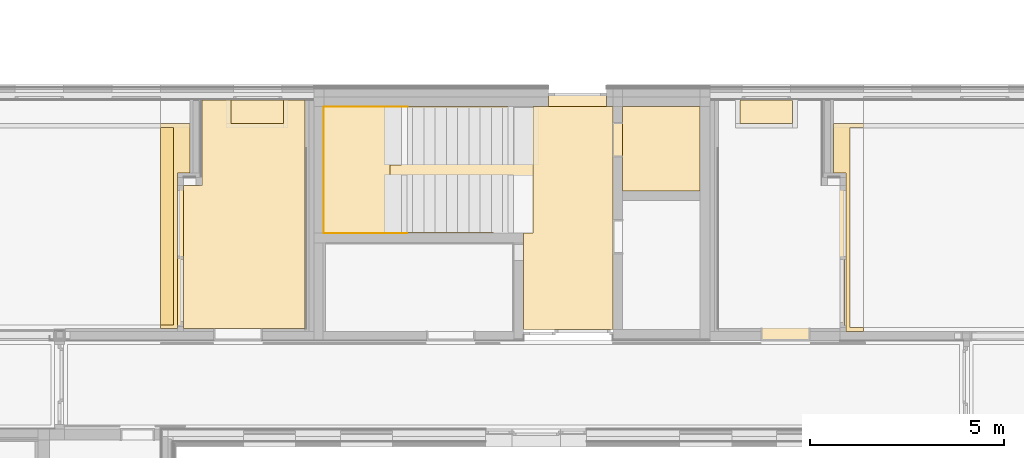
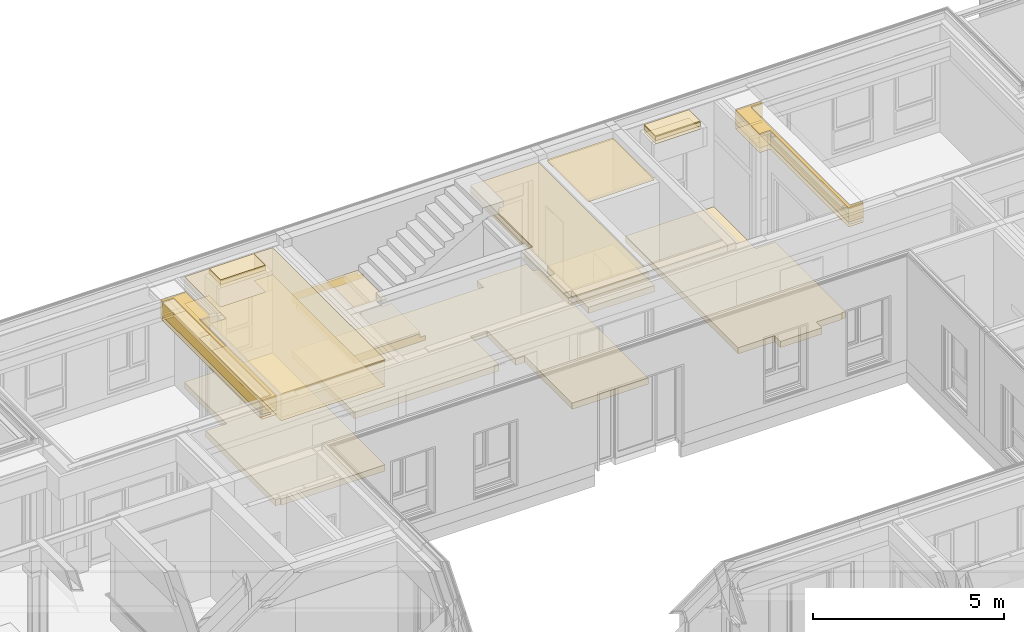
# One storey, part 176 of 207: 35 coverings.
"""IFC4 building model written with IfcOpenShell, lengths in metres."""

from ifc_helpers import new_model, entity, si_unit, converted_unit, derived_unit, frame, frame_2d, origin, origin_with_axes, place, context, subcontext, project, spatial, polyline, rectangle, outline, extrude, material, layer, layer_set, layer_usage, element, save


model = new_model("IFC4")

# Units and contexts
model_context = context("Model", 3, precision=1e-05, world=origin())
body_context = subcontext(model_context, "Body", "Model", "MODEL_VIEW")
ifc_project = project(units=[si_unit("LENGTHUNIT", "METRE"), si_unit("AREAUNIT", "SQUARE_METRE"), si_unit("VOLUMEUNIT", "CUBIC_METRE"), si_unit("MASSUNIT", "GRAM", prefix="KILO"), converted_unit("PLANEANGLEUNIT", "DEGREE", entity("IfcPlaneAngleMeasure", 0.0174532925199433), si_unit("PLANEANGLEUNIT", "RADIAN"), dimensions=[0, 0, 0, 0, 0, 0, 0]), derived_unit("THERMALTRANSMITTANCEUNIT", [(si_unit("POWERUNIT", "WATT"), 1), (si_unit("THERMODYNAMICTEMPERATUREUNIT", "KELVIN"), -1), (si_unit("LENGTHUNIT", "METRE"), -2)]), derived_unit("VOLUMETRICFLOWRATEUNIT", [(si_unit("LENGTHUNIT", "METRE"), 3), (converted_unit("TIMEUNIT", "hour", entity("IfcTimeMeasure", 3600.0), si_unit("TIMEUNIT", "SECOND"), dimensions=[0, 0, 1, 0, 0, 0, 0]), -1), (si_unit("LENGTHUNIT", "METRE"), -1)])], contexts=[model_context])

# Site, building, storey, space
site_placement = place(None, origin())
site = spatial("IfcSite", under=ifc_project, at=site_placement, Name="Psychiatrie Neubau Wunstorf", CompositionType="ELEMENT")
building_placement = place(site_placement, origin())
building = spatial("IfcBuilding", under=site, at=building_placement, Name="Neubau H2 Stationsgebäude", CompositionType="ELEMENT")
storey_placement = place(building_placement, frame((0.0, 0.0, -0.2)))
storey = spatial("IfcBuildingStorey", under=building, at=storey_placement, Name="H2 Ebene 0", CompositionType="ELEMENT", Elevation=-0.2)
space_1_placement = place(storey_placement, frame((48.15, 23.1555122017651, 0.0)))
space_1 = spatial("IfcSpace", under=storey, at=space_1_placement, Name="WUN-H2-E00-T03", CompositionType="ELEMENT")

# Coverings
ifc_material_1 = material(Name="Fl12")
ifc_layer_1 = layer(ifc_material_1, 0.06)
ifc_layer_set_1 = layer_set([ifc_layer_1])
ifc_layer_usage_1 = layer_usage(ifc_layer_set_1, "AXIS3", "POSITIVE", 0.0)
covering_1_placement = place(space_1_placement, frame((0.0, 2.47948656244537, 2.015)))
element("IfcCovering", 1, at=covering_1_placement, inside=space_1, material=ifc_layer_usage_1, PredefinedType="FLOORING", context=body_context, shape_type="SweptSolid", body=[
    extrude(outline(polyline([(1.995, 1.76000092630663), (1.995, 3.26000093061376), (0.0, 3.26000093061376), (0.0, 0.0), (1.995, 0.0), (1.995, 1.50000122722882), (1.7, 1.50000122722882), (1.7, 1.76000092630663), (1.995, 1.76000092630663)])), origin_with_axes(), (0.0, 0.0, 1.0), 0.06),
])
ifc_material_2 = material(Name="Fl12")
ifc_layer_2 = layer(ifc_material_2, 0.2)
ifc_layer_set_2 = layer_set([ifc_layer_2])
ifc_layer_usage_2 = layer_usage(ifc_layer_set_2, "AXIS3", "POSITIVE", 0.0)
covering_2_placement = place(space_1_placement, origin())
element("IfcCovering", 2, at=covering_2_placement, inside=space_1, material=ifc_layer_usage_2, Name="Fliesen Großformat", PredefinedType="FLOORING", context=body_context, shape_type="SweptSolid", body=[
    extrude(rectangle(XDim=0.350999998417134, YDim=1.5000257, at=frame_2d((-0.750012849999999, 0.175500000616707), x_axis=(0.0, 1.0))), frame((7.28750000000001, 5.73948748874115, 0.0), z_axis=(0.0, 0.0, 1.0), x_axis=(1.0, 0.0, 0.0)), (0.0, 0.0, 1.0), 0.2),
    extrude(outline(polyline([(0.0, 5.73948749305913), (0.0, 2.47948778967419), (4.37499999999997, 2.47948778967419), (4.37500000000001, 3.97448778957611), (4.87499999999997, 3.97448778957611), (4.87499999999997, 2.47948778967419), (5.15, 2.47948778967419), (5.15000498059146, 0.0), (7.45000498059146, 0.0), (7.45, 5.73948748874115), (0.0, 5.73948749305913)])), origin_with_axes(), (0.0, 0.0, 1.0), 0.2),
])
ifc_material_3 = material(Name="03")
ifc_layer_3 = layer(ifc_material_3, 0.001)
ifc_layer_set_3 = layer_set([ifc_layer_3])
ifc_layer_usage_3 = layer_usage(ifc_layer_set_3, "AXIS3", "POSITIVE", 0.0)
covering_3_placement = place(space_1_placement, frame((0.0, 2.47948656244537, 1.7655)))
element("IfcCovering", 3, at=covering_3_placement, inside=space_1, material=ifc_layer_usage_3, Name="Sichtbetonklasse SB3", PredefinedType="CLADDING", context=body_context, shape_type="SweptSolid", body=[
    extrude(outline(polyline([(0.0, 0.25), (2.15704842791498, 0.25), (2.15704842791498, 0.0), (0.162048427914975, 0.0), (0.162048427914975, 0.11), (0.0, 0.11), (0.0, 0.25)])), frame((2.15704842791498, 3.26000092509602, 0.25), z_axis=(-2.30180262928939e-09, -1.0, -4.17665859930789e-09), x_axis=(-1.0, 2.30180262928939e-09, 0.0)), (0.0, 0.0, 1.0), 0.001),
    extrude(rectangle(XDim=0.25, YDim=3.26000093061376, at=frame_2d((-1.63000046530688, -0.125), x_axis=(0.0, -1.0))), frame((0.0, 0.0, 0.0), z_axis=(1.0, 0.0, 0.0), x_axis=(0.0, -1.0, 0.0)), (0.0, 0.0, 1.0), 0.001),
    extrude(outline(polyline([(0.0, 0.250000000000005), (2.14704842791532, 0.250000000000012), (2.14704842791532, 0.110000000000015), (1.99500000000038, 0.109999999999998), (1.99500000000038, 0.0), (0.0, 0.0), (0.0, 0.250000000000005)])), frame((0.0, 2.51185774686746e-08, 0.250000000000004), z_axis=(-5.90004227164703e-07, 0.99999999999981, -1.79418430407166e-07), x_axis=(0.999999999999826, 5.90004227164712e-07, 0.0)), (0.0, 0.0, 1.0), 0.001),
])
ifc_material_4 = material()
ifc_layer_4 = layer(ifc_material_4, 0.036)
ifc_layer_set_4 = layer_set([ifc_layer_4])
ifc_layer_usage_4 = layer_usage(ifc_layer_set_4, "AXIS3", "POSITIVE", 0.0)
covering_4_placement = place(space_1_placement, frame((5.15000274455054, 0.0, 3.6)))
element("IfcCovering", 4, at=covering_4_placement, inside=space_1, material=ifc_layer_usage_4, Name="Gipsfaserplatten 2-lagig (BSK)", PredefinedType="CEILING", context=body_context, shape_type="SweptSolid", body=[
    extrude(outline(polyline([(0.0, 3.25999969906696), (0.23999725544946, 3.25999969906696), (0.23999725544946, 0.0), (2.29999725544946, 0.0), (2.30000223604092, 5.73948748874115), (2.23604092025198e-06, 5.73948748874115), (0.0, 3.25999969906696)])), frame((0.0, 5.73948748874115, 0.0), z_axis=(0.0, 0.0, -1.0), x_axis=(1.0, 0.0, 0.0)), (0.0, 0.0, 1.0), 0.036),
])
ifc_material_5 = material(Name="Installationshöhe")
ifc_layer_5 = layer(ifc_material_5, 0.164)
ifc_layer_set_5 = layer_set([ifc_layer_5])
ifc_layer_usage_5 = layer_usage(ifc_layer_set_5, "AXIS3", "POSITIVE", 0.0)
covering_5_placement = place(space_1_placement, frame((5.15000274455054, 0.0, 3.564)))
element("IfcCovering", 5, at=covering_5_placement, inside=space_1, material=ifc_layer_usage_5, Name="Gipsfaserplatten 2-lagig (BSK)", PredefinedType="CEILING", context=body_context, shape_type="SweptSolid", body=[
    extrude(outline(polyline([(0.0, 3.25999969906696), (0.23999725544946, 3.25999969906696), (0.23999725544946, 0.0), (2.29999725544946, 0.0), (2.30000223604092, 5.73948748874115), (2.23604092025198e-06, 5.73948748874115), (0.0, 3.25999969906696)])), frame((0.0, 5.73948748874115, 0.0), z_axis=(0.0, 0.0, -1.0), x_axis=(1.0, 0.0, 0.0)), (0.0, 0.0, 1.0), 0.164),
])
ifc_material_6 = material(Name="A1")
ifc_layer_6 = layer(ifc_material_6, 0.1)
ifc_layer_set_6 = layer_set([ifc_layer_6])
ifc_layer_usage_6 = layer_usage(ifc_layer_set_6, "AXIS3", "POSITIVE", 0.0)
covering_6_placement = place(space_1_placement, frame((5.15000274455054, 0.0, 3.4)))
element("IfcCovering", 6, at=covering_6_placement, inside=space_1, material=ifc_layer_usage_6, Name="Gipsfaserplatten 2-lagig (BSK)", PredefinedType="CEILING", context=body_context, shape_type="SweptSolid", body=[
    extrude(outline(polyline([(0.0, 3.25999969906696), (0.23999725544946, 3.25999969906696), (0.23999725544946, 0.0), (2.29999725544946, 0.0), (2.30000223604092, 5.73948748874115), (2.23604092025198e-06, 5.73948748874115), (0.0, 3.25999969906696)])), frame((0.0, 5.73948748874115, 0.0), z_axis=(0.0, 0.0, -1.0), x_axis=(1.0, 0.0, 0.0)), (0.0, 0.0, 1.0), 0.1),
])
ifc_material_7 = material(Name="D1")
ifc_layer_7 = layer(ifc_material_7, 0.001)
ifc_layer_set_7 = layer_set([ifc_layer_7])
ifc_layer_usage_7 = layer_usage(ifc_layer_set_7, "AXIS3", "POSITIVE", 0.0)
covering_7_placement = place(space_1_placement, frame((5.15000274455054, 0.0, 3.3)))
element("IfcCovering", 7, at=covering_7_placement, inside=space_1, material=ifc_layer_usage_7, Name="Gipsfaserplatten 2-lagig (BSK)", PredefinedType="CEILING", context=body_context, shape_type="SweptSolid", body=[
    extrude(outline(polyline([(0.0, 3.25999969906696), (0.23999725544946, 3.25999969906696), (0.23999725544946, 0.0), (2.29999725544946, 0.0), (2.30000223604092, 5.73948748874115), (2.23604092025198e-06, 5.73948748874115), (0.0, 3.25999969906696)])), frame((0.0, 5.73948748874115, 0.0), z_axis=(0.0, 0.0, -1.0), x_axis=(1.0, 0.0, 0.0)), (0.0, 0.0, 1.0), 0.001),
])

# Space
space_2_placement = place(storey_placement, frame((38.244, 23.1539990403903, 0.0)))
space_2 = spatial("IfcSpace", under=storey, at=space_2_placement, Name="WUN-H2-E00-008", CompositionType="ELEMENT")

# Coverings
ifc_material_8 = material(Name="Installationshöhe")
ifc_layer_8 = layer(ifc_material_8, 0.424)
ifc_layer_set_8 = layer_set([ifc_layer_8])
ifc_layer_usage_8 = layer_usage(ifc_layer_set_8, "AXIS3", "POSITIVE", 0.0)
covering_8_placement = place(space_2_placement, frame((5.69350000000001, 0.117000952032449, 3.524)))
element("IfcCovering", 8, at=covering_8_placement, inside=space_2, material=ifc_layer_usage_8, Name="Gipsfaserplatten 2-lagig (BSK)", PredefinedType="CEILING", context=body_context, shape_type="SweptSolid", body=[
    extrude(rectangle(XDim=5.09299969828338, YDim=0.337499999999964, at=frame_2d((-0.168749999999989, 2.54649984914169), x_axis=(-2.8572385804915e-15, 1.0))), frame((0.337499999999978, 5.09299969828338, 0.0), z_axis=(0.0, 0.0, -1.0), x_axis=(1.0, 0.0, 0.0)), (0.0, 0.0, 1.0), 0.424),
])
ifc_material_9 = material(Name="Aa")
ifc_layer_9 = layer(ifc_material_9, 0.15)
ifc_layer_set_9 = layer_set([ifc_layer_9])
ifc_layer_usage_9 = layer_usage(ifc_layer_set_9, "AXIS3", "POSITIVE", 0.0)
covering_9_placement = place(space_2_placement, frame((5.69350000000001, 0.117000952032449, 3.1)))
element("IfcCovering", 9, at=covering_9_placement, inside=space_2, material=ifc_layer_usage_9, Name="Gipsfaserplatten 2-lagig (BSK)", PredefinedType="CEILING", context=body_context, shape_type="SweptSolid", body=[
    extrude(rectangle(XDim=5.09299969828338, YDim=0.337499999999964, at=frame_2d((-0.168749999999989, 2.54649984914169), x_axis=(-2.8572385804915e-15, 1.0))), frame((0.337499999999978, 5.09299969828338, 0.0), z_axis=(0.0, 0.0, -1.0), x_axis=(1.0, 0.0, 0.0)), (0.0, 0.0, 1.0), 0.15),
])
ifc_material_10 = material(Name="D1")
ifc_layer_10 = layer(ifc_material_10, 0.001)
ifc_layer_set_10 = layer_set([ifc_layer_10])
ifc_layer_usage_10 = layer_usage(ifc_layer_set_10, "AXIS3", "POSITIVE", 0.0)
covering_10_placement = place(space_2_placement, frame((5.69350000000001, 0.117000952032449, 2.95)))
element("IfcCovering", 10, at=covering_10_placement, inside=space_2, material=ifc_layer_usage_10, Name="Gipsfaserplatten 2-lagig (BSK)", PredefinedType="CEILING", context=body_context, shape_type="SweptSolid", body=[
    extrude(rectangle(XDim=5.09299969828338, YDim=0.337499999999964, at=frame_2d((-0.168749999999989, 2.54649984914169), x_axis=(-2.8572385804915e-15, 1.0))), frame((0.337499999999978, 5.09299969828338, 0.0), z_axis=(0.0, 0.0, -1.0), x_axis=(1.0, 0.0, 0.0)), (0.0, 0.0, 1.0), 0.001),
])
ifc_material_11 = material()
ifc_layer_11 = layer(ifc_material_11, 0.036)
ifc_layer_set_11 = layer_set([ifc_layer_11])
ifc_layer_usage_11 = layer_usage(ifc_layer_set_11, "AXIS3", "POSITIVE", 0.0)
covering_11_placement = place(space_2_placement, frame((5.69350000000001, 0.0170009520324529, 3.56)))
element("IfcCovering", 11, at=covering_11_placement, inside=space_2, material=ifc_layer_usage_11, Name="Gipsfaserplatten 2-lagig (BSK)", PredefinedType="CEILING", context=body_context, shape_type="SweptSolid", body=[
    extrude(outline(polyline([(0.762499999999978, 0.0), (0.762499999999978, 1.27500000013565), (0.437499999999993, 1.27500000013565), (0.437499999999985, 5.29299969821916), (0.0, 5.29299969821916), (0.0, 5.19299969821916), (0.337499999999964, 5.19299969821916), (0.337499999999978, 0.0999999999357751), (0.0, 0.0999999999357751), (0.0, 0.0), (0.762499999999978, 0.0)])), frame((0.0, 5.29299969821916, 0.0), z_axis=(0.0, 0.0, -1.0), x_axis=(1.0, 0.0, 0.0)), (0.0, 0.0, 1.0), 0.036),
])
ifc_material_12 = material(Name="Installationshöhe")
ifc_layer_12 = layer(ifc_material_12, 0.424)
ifc_layer_set_12 = layer_set([ifc_layer_12])
ifc_layer_usage_12 = layer_usage(ifc_layer_set_12, "AXIS3", "POSITIVE", 0.0)
covering_12_placement = place(space_2_placement, frame((5.69350000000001, 0.0170009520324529, 3.524)))
element("IfcCovering", 12, at=covering_12_placement, inside=space_2, material=ifc_layer_usage_12, Name="Gipsfaserplatten 2-lagig (BSK)", PredefinedType="CEILING", context=body_context, shape_type="SweptSolid", body=[
    extrude(outline(polyline([(0.762499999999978, 0.0), (0.762499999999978, 1.27500000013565), (0.437499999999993, 1.27500000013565), (0.437499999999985, 5.29299969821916), (0.0, 5.29299969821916), (0.0, 5.19299969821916), (0.337499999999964, 5.19299969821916), (0.337499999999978, 0.0999999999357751), (0.0, 0.0999999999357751), (0.0, 0.0), (0.762499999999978, 0.0)])), frame((0.0, 5.29299969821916, 0.0), z_axis=(0.0, 0.0, -1.0), x_axis=(1.0, 0.0, 0.0)), (0.0, 0.0, 1.0), 0.424),
])
ifc_material_13 = material(Name="A1")
ifc_layer_13 = layer(ifc_material_13, 0.15)
ifc_layer_set_13 = layer_set([ifc_layer_13])
ifc_layer_usage_13 = layer_usage(ifc_layer_set_13, "AXIS3", "POSITIVE", 0.0)
covering_13_placement = place(space_2_placement, frame((5.69350000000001, 0.0170009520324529, 3.1)))
element("IfcCovering", 13, at=covering_13_placement, inside=space_2, material=ifc_layer_usage_13, Name="Gipsfaserplatten 2-lagig (BSK)", PredefinedType="CEILING", context=body_context, shape_type="SweptSolid", body=[
    extrude(outline(polyline([(0.762499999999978, 0.0), (0.762499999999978, 1.27500000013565), (0.437499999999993, 1.27500000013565), (0.437499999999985, 5.29299969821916), (0.0, 5.29299969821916), (0.0, 5.19299969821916), (0.337499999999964, 5.19299969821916), (0.337499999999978, 0.0999999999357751), (0.0, 0.0999999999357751), (0.0, 0.0), (0.762499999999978, 0.0)])), frame((0.0, 5.29299969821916, 0.0), z_axis=(0.0, 0.0, -1.0), x_axis=(1.0, 0.0, 0.0)), (0.0, 0.0, 1.0), 0.15),
])
ifc_material_14 = material(Name="D1")
ifc_layer_14 = layer(ifc_material_14, 0.001)
ifc_layer_set_14 = layer_set([ifc_layer_14])
ifc_layer_usage_14 = layer_usage(ifc_layer_set_14, "AXIS3", "POSITIVE", 0.0)
covering_14_placement = place(space_2_placement, frame((5.69350000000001, 0.0170009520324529, 2.95)))
element("IfcCovering", 14, at=covering_14_placement, inside=space_2, material=ifc_layer_usage_14, Name="Gipsfaserplatten 2-lagig (BSK)", PredefinedType="CEILING", context=body_context, shape_type="SweptSolid", body=[
    extrude(outline(polyline([(0.762499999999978, 0.0), (0.762499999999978, 1.27500000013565), (0.437499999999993, 1.27500000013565), (0.437499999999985, 5.29299969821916), (0.0, 5.29299969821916), (0.0, 5.19299969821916), (0.337499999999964, 5.19299969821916), (0.337499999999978, 0.0999999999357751), (0.0, 0.0999999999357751), (0.0, 0.0), (0.762499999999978, 0.0)])), frame((0.0, 5.29299969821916, 0.0), z_axis=(0.0, 0.0, -1.0), x_axis=(1.0, 0.0, 0.0)), (0.0, 0.0, 1.0), 0.001),
])

# Space
space_3_placement = place(storey_placement, frame((44.525, 23.1709999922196, 0.0)))
space_3 = spatial("IfcSpace", under=storey, at=space_3_placement, Name="WUN-H2-E00-048", CompositionType="ELEMENT")

# Coverings
ifc_material_15 = material(Name="Ku1")
ifc_layer_15 = layer(ifc_material_15, 0.2)
ifc_layer_set_15 = layer_set([ifc_layer_15])
ifc_layer_usage_15 = layer_usage(ifc_layer_set_15, "AXIS3", "POSITIVE", 0.0)
covering_15_placement = place(space_3_placement, frame((-0.150000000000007, 0.0, 0.0)))
element("IfcCovering", 15, at=covering_15_placement, inside=space_3, material=ifc_layer_usage_15, Name="PVC Bahnenware Holzoptik", PredefinedType="FLOORING", context=body_context, shape_type="SweptSolid", body=[
    extrude(rectangle(XDim=0.15, YDim=3.64, at=frame_2d((0.075, 1.82), x_axis=(1.0, 0.0))), frame((0.0, 0.0499999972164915, 0.0), z_axis=(0.0, 0.0, 1.0), x_axis=(1.0, 0.0, 0.0)), (0.0, 0.0, 1.0), 0.2),
    extrude(outline(polyline([(0.0, 3.69299969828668), (0.0, 0.0), (3.13899999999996, 0.0), (3.13899999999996, 5.89299969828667), (0.474999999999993, 5.89299969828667), (0.474999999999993, 3.69299969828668), (0.0, 3.69299969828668)])), frame((0.150000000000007, 0.0, 0.0), z_axis=(0.0, 0.0, 1.0), x_axis=(1.0, 0.0, 0.0)), (0.0, 0.0, 1.0), 0.2),
])
ifc_material_16 = material()
ifc_layer_16 = layer(ifc_material_16, 0.036)
ifc_layer_set_16 = layer_set([ifc_layer_16])
ifc_layer_usage_16 = layer_usage(ifc_layer_set_16, "AXIS3", "POSITIVE", 0.0)
covering_16_placement = place(space_3_placement, frame((0.0, 0.0, 3.56)))
element("IfcCovering", 16, at=covering_16_placement, inside=space_3, material=ifc_layer_usage_16, Name="Gipsfaserplatten 2-lagig (BSK)", PredefinedType="CEILING", context=body_context, shape_type="SweptSolid", body=[
    extrude(outline(polyline([(1.22499985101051, 0.600000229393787), (2.57799975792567, 0.600000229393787), (2.57799975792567, 0.0), (3.13899999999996, 0.0), (3.13899999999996, 5.89299992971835), (0.0, 5.89299992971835), (0.0, 2.20000023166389), (0.474999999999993, 2.20000023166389), (0.474999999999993, 2.3166390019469e-07), (1.22499985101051, 2.3166390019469e-07), (1.22499985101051, 0.600000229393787)])), frame((0.0, 5.89299992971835, 0.0), z_axis=(0.0, 0.0, -1.0), x_axis=(1.0, 0.0, 0.0)), (0.0, 0.0, 1.0), 0.036),
])
ifc_material_17 = material(Name="Installationshöhe")
ifc_layer_17 = layer(ifc_material_17, 0.724)
ifc_layer_set_17 = layer_set([ifc_layer_17])
ifc_layer_usage_17 = layer_usage(ifc_layer_set_17, "AXIS3", "POSITIVE", 0.0)
covering_17_placement = place(space_3_placement, frame((0.0, 0.0, 3.524)))
element("IfcCovering", 17, at=covering_17_placement, inside=space_3, material=ifc_layer_usage_17, Name="Gipsfaserplatten 2-lagig (BSK)", PredefinedType="CEILING", context=body_context, shape_type="SweptSolid", body=[
    extrude(outline(polyline([(1.22499985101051, 0.600000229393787), (2.57799975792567, 0.600000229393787), (2.57799975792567, 0.0), (3.13899999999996, 0.0), (3.13899999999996, 5.89299992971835), (0.0, 5.89299992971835), (0.0, 2.20000023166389), (0.474999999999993, 2.20000023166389), (0.474999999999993, 2.3166390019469e-07), (1.22499985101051, 2.3166390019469e-07), (1.22499985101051, 0.600000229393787)])), frame((0.0, 5.89299992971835, 0.0), z_axis=(0.0, 0.0, -1.0), x_axis=(1.0, 0.0, 0.0)), (0.0, 0.0, 1.0), 0.724),
])
ifc_material_18 = material(Name="A1")
ifc_layer_18 = layer(ifc_material_18, 0.1)
ifc_layer_set_18 = layer_set([ifc_layer_18])
ifc_layer_usage_18 = layer_usage(ifc_layer_set_18, "AXIS3", "POSITIVE", 0.0)
covering_18_placement = place(space_3_placement, frame((0.0, 0.0, 2.8)))
element("IfcCovering", 18, at=covering_18_placement, inside=space_3, material=ifc_layer_usage_18, Name="Gipsfaserplatten 2-lagig (BSK)", PredefinedType="CEILING", context=body_context, shape_type="SweptSolid", body=[
    extrude(outline(polyline([(1.22499985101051, 0.600000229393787), (2.57799975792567, 0.600000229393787), (2.57799975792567, 0.0), (3.13899999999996, 0.0), (3.13899999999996, 5.89299992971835), (0.0, 5.89299992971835), (0.0, 2.20000023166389), (0.474999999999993, 2.20000023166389), (0.474999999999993, 2.3166390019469e-07), (1.22499985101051, 2.3166390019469e-07), (1.22499985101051, 0.600000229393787)])), frame((0.0, 5.89299992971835, 0.0), z_axis=(0.0, 0.0, -1.0), x_axis=(1.0, 0.0, 0.0)), (0.0, 0.0, 1.0), 0.1),
])
ifc_material_19 = material(Name="D1")
ifc_layer_19 = layer(ifc_material_19, 0.001)
ifc_layer_set_19 = layer_set([ifc_layer_19])
ifc_layer_usage_19 = layer_usage(ifc_layer_set_19, "AXIS3", "POSITIVE", 0.0)
covering_19_placement = place(space_3_placement, frame((0.0, 0.0, 2.7)))
element("IfcCovering", 19, at=covering_19_placement, inside=space_3, material=ifc_layer_usage_19, Name="Gipsfaserplatten 2-lagig (BSK)", PredefinedType="CEILING", context=body_context, shape_type="SweptSolid", body=[
    extrude(outline(polyline([(1.22499985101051, 0.600000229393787), (2.57799975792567, 0.600000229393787), (2.57799975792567, 0.0), (3.13899999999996, 0.0), (3.13899999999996, 5.89299992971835), (0.0, 5.89299992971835), (0.0, 2.20000023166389), (0.474999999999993, 2.20000023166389), (0.474999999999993, 2.3166390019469e-07), (1.22499985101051, 2.3166390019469e-07), (1.22499985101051, 0.600000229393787)])), frame((0.0, 5.89299992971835, 0.0), z_axis=(0.0, 0.0, -1.0), x_axis=(1.0, 0.0, 0.0)), (0.0, 0.0, 1.0), 0.001),
])
ifc_material_20 = material()
ifc_layer_20 = layer(ifc_material_20, 0.036)
ifc_layer_set_20 = layer_set([ifc_layer_20])
ifc_layer_usage_20 = layer_usage(ifc_layer_set_20, "AXIS3", "POSITIVE", 0.0)
covering_20_placement = place(space_3_placement, frame((1.22499985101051, 5.29299970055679, 3.56)))
element("IfcCovering", 20, at=covering_20_placement, inside=space_3, material=ifc_layer_usage_20, Name="Gipsfaserplatten 2-lagig (BSK)", PredefinedType="CEILING", context=body_context, shape_type="SweptSolid", body=[
    extrude(rectangle(XDim=1.35299990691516, YDim=0.599999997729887, at=frame_2d((0.67649995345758, 0.299999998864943), x_axis=(1.0, 0.0))), frame((0.0, 0.599999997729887, 0.0), z_axis=(0.0, 0.0, -1.0), x_axis=(1.0, 0.0, 0.0)), (0.0, 0.0, 1.0), 0.036),
])
ifc_material_21 = material(Name="Installationshöhe")
ifc_layer_21 = layer(ifc_material_21, 0.124)
ifc_layer_set_21 = layer_set([ifc_layer_21])
ifc_layer_usage_21 = layer_usage(ifc_layer_set_21, "AXIS3", "POSITIVE", 0.0)
covering_21_placement = place(space_3_placement, frame((1.22499985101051, 5.29299970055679, 3.524)))
element("IfcCovering", 21, at=covering_21_placement, inside=space_3, material=ifc_layer_usage_21, Name="Gipsfaserplatten 2-lagig (BSK)", PredefinedType="CEILING", context=body_context, shape_type="SweptSolid", body=[
    extrude(rectangle(XDim=1.35299990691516, YDim=0.599999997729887, at=frame_2d((0.67649995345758, 0.299999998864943), x_axis=(1.0, 0.0))), frame((0.0, 0.599999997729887, 0.0), z_axis=(0.0, 0.0, -1.0), x_axis=(1.0, 0.0, 0.0)), (0.0, 0.0, 1.0), 0.124),
])
ifc_material_22 = material(Name="A1")
ifc_layer_22 = layer(ifc_material_22, 0.1)
ifc_layer_set_22 = layer_set([ifc_layer_22])
ifc_layer_usage_22 = layer_usage(ifc_layer_set_22, "AXIS3", "POSITIVE", 0.0)
covering_22_placement = place(space_3_placement, frame((1.22499985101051, 5.29299970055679, 3.4)))
element("IfcCovering", 22, at=covering_22_placement, inside=space_3, material=ifc_layer_usage_22, Name="Gipsfaserplatten 2-lagig (BSK)", PredefinedType="CEILING", context=body_context, shape_type="SweptSolid", body=[
    extrude(rectangle(XDim=1.35299990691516, YDim=0.599999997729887, at=frame_2d((0.67649995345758, 0.299999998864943), x_axis=(1.0, 0.0))), frame((0.0, 0.599999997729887, 0.0), z_axis=(0.0, 0.0, -1.0), x_axis=(1.0, 0.0, 0.0)), (0.0, 0.0, 1.0), 0.1),
])
ifc_material_23 = material(Name="D1")
ifc_layer_23 = layer(ifc_material_23, 0.001)
ifc_layer_set_23 = layer_set([ifc_layer_23])
ifc_layer_usage_23 = layer_usage(ifc_layer_set_23, "AXIS3", "POSITIVE", 0.0)
covering_23_placement = place(space_3_placement, frame((1.22499985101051, 5.29299970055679, 3.3)))
element("IfcCovering", 23, at=covering_23_placement, inside=space_3, material=ifc_layer_usage_23, Name="Gipsfaserplatten 2-lagig (BSK)", PredefinedType="CEILING", context=body_context, shape_type="SweptSolid", body=[
    extrude(rectangle(XDim=1.35299990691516, YDim=0.599999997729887, at=frame_2d((0.67649995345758, 0.299999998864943), x_axis=(1.0, 0.0))), frame((0.0, 0.599999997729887, 0.0), z_axis=(0.0, 0.0, -1.0), x_axis=(1.0, 0.0, 0.0)), (0.0, 0.0, 1.0), 0.001),
])

# Space
space_4_placement = place(storey_placement, frame((58.325, 23.1719999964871, 0.0)))
space_4 = spatial("IfcSpace", under=storey, at=space_4_placement, Name="WUN-H2-E00-050", CompositionType="ELEMENT")

# Coverings
ifc_material_24 = material(Name="Ku1")
ifc_layer_24 = layer(ifc_material_24, 0.2)
ifc_layer_set_24 = layer_set([ifc_layer_24])
ifc_layer_usage_24 = layer_usage(ifc_layer_set_24, "AXIS3", "POSITIVE", 0.0)
covering_24_placement = place(space_4_placement, frame((0.0, -0.307, 0.0)))
element("IfcCovering", 24, at=covering_24_placement, inside=space_4, material=ifc_layer_usage_24, Name="PVC Bahnenware Holzoptik", PredefinedType="FLOORING", context=body_context, shape_type="SweptSolid", body=[
    extrude(rectangle(XDim=0.114999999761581, YDim=3.667, at=frame_2d((-0.0574999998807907, -1.8335), x_axis=(-1.0, 0.0))), frame((3.25399999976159, 3.99899969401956, 0.0), z_axis=(0.0, 0.0, 1.0), x_axis=(1.0, 0.0, 0.0)), (0.0, 0.0, 1.0), 0.2),
    extrude(rectangle(XDim=0.307, YDim=1.259, at=frame_2d((0.6295, -0.1535), x_axis=(0.0, -1.0))), frame((1.10000000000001, 0.307, 0.0), z_axis=(0.0, 0.0, 1.0), x_axis=(1.0, 0.0, 0.0)), (0.0, 0.0, 1.0), 0.2),
    extrude(outline(polyline([(2.66399999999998, 3.6919996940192), (2.66399999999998, 5.89199969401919), (0.0, 5.8919996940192), (0.0, 0.0), (3.13899999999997, 0.0), (3.13899999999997, 3.6919996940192), (2.66399999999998, 3.6919996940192)])), frame((0.0, 0.307, 0.0), z_axis=(0.0, 0.0, 1.0), x_axis=(1.0, 0.0, 0.0)), (0.0, 0.0, 1.0), 0.2),
])
ifc_material_25 = material()
ifc_layer_25 = layer(ifc_material_25, 0.036)
ifc_layer_set_25 = layer_set([ifc_layer_25])
ifc_layer_usage_25 = layer_usage(ifc_layer_set_25, "AXIS3", "POSITIVE", 0.0)
covering_25_placement = place(space_4_placement, frame((0.561000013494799, 5.29199969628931, 3.56)))
element("IfcCovering", 25, at=covering_25_placement, inside=space_4, material=ifc_layer_usage_25, Name="Gipsfaserplatten 2-lagig (BSK)", PredefinedType="CEILING", context=body_context, shape_type="SweptSolid", body=[
    extrude(rectangle(XDim=1.35299997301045, YDim=0.599999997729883, at=frame_2d((0.676499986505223, 0.29999999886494), x_axis=(1.0, -2.68882400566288e-15))), frame((0.0, 0.599999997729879, 0.0), z_axis=(0.0, 0.0, -1.0), x_axis=(1.0, 0.0, 0.0)), (0.0, 0.0, 1.0), 0.036),
])
ifc_material_26 = material(Name="Installationshöhe")
ifc_layer_26 = layer(ifc_material_26, 0.124)
ifc_layer_set_26 = layer_set([ifc_layer_26])
ifc_layer_usage_26 = layer_usage(ifc_layer_set_26, "AXIS3", "POSITIVE", 0.0)
covering_26_placement = place(space_4_placement, frame((0.561000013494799, 5.29199969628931, 3.524)))
element("IfcCovering", 26, at=covering_26_placement, inside=space_4, material=ifc_layer_usage_26, Name="Gipsfaserplatten 2-lagig (BSK)", PredefinedType="CEILING", context=body_context, shape_type="SweptSolid", body=[
    extrude(rectangle(XDim=1.35299997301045, YDim=0.599999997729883, at=frame_2d((0.676499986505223, 0.29999999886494), x_axis=(1.0, -2.68882400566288e-15))), frame((0.0, 0.599999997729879, 0.0), z_axis=(0.0, 0.0, -1.0), x_axis=(1.0, 0.0, 0.0)), (0.0, 0.0, 1.0), 0.124),
])
ifc_material_27 = material(Name="A1")
ifc_layer_27 = layer(ifc_material_27, 0.1)
ifc_layer_set_27 = layer_set([ifc_layer_27])
ifc_layer_usage_27 = layer_usage(ifc_layer_set_27, "AXIS3", "POSITIVE", 0.0)
covering_27_placement = place(space_4_placement, frame((0.561000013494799, 5.29199969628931, 3.4)))
element("IfcCovering", 27, at=covering_27_placement, inside=space_4, material=ifc_layer_usage_27, Name="Gipsfaserplatten 2-lagig (BSK)", PredefinedType="CEILING", context=body_context, shape_type="SweptSolid", body=[
    extrude(rectangle(XDim=1.35299997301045, YDim=0.599999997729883, at=frame_2d((0.676499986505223, 0.29999999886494), x_axis=(1.0, -2.68882400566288e-15))), frame((0.0, 0.599999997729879, 0.0), z_axis=(0.0, 0.0, -1.0), x_axis=(1.0, 0.0, 0.0)), (0.0, 0.0, 1.0), 0.1),
])
ifc_material_28 = material(Name="D1")
ifc_layer_28 = layer(ifc_material_28, 0.001)
ifc_layer_set_28 = layer_set([ifc_layer_28])
ifc_layer_usage_28 = layer_usage(ifc_layer_set_28, "AXIS3", "POSITIVE", 0.0)
covering_28_placement = place(space_4_placement, frame((0.561000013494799, 5.29199969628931, 3.3)))
element("IfcCovering", 28, at=covering_28_placement, inside=space_4, material=ifc_layer_usage_28, Name="Gipsfaserplatten 2-lagig (BSK)", PredefinedType="CEILING", context=body_context, shape_type="SweptSolid", body=[
    extrude(rectangle(XDim=1.35299997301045, YDim=0.599999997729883, at=frame_2d((0.676499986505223, 0.29999999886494), x_axis=(1.0, -2.68882400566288e-15))), frame((0.0, 0.599999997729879, 0.0), z_axis=(0.0, 0.0, -1.0), x_axis=(1.0, 0.0, 0.0)), (0.0, 0.0, 1.0), 0.001),
])

# Space
space_5_placement = place(storey_placement, frame((61.289, 23.0959999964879, 0.0)))
space_5 = spatial("IfcSpace", under=storey, at=space_5_placement, Name="WUN-H2-E00-055", CompositionType="ELEMENT")

# Coverings
ifc_material_29 = material()
ifc_layer_29 = layer(ifc_material_29, 0.036)
ifc_layer_set_29 = layer_set([ifc_layer_29])
ifc_layer_usage_29 = layer_usage(ifc_layer_set_29, "AXIS3", "POSITIVE", 0.0)
covering_29_placement = place(space_5_placement, frame((0.0, 0.0, 3.56)))
element("IfcCovering", 29, at=covering_29_placement, inside=space_5, material=ifc_layer_usage_29, Name="Gipsfaserplatten 2-lagig (BSK)", PredefinedType="CEILING", context=body_context, shape_type="SweptSolid", body=[
    extrude(outline(polyline([(0.424999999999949, 0.1), (0.424999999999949, 5.2679996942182), (0.773500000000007, 5.2679996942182), (0.773500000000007, 5.3679996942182), (0.324999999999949, 5.3679996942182), (0.324999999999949, 1.27500000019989), (0.0, 1.27500000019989), (0.0, 0.0), (0.773500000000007, 0.0), (0.773500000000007, 0.1), (0.424999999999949, 0.1)])), frame((0.0, 5.3679996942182, 0.0), z_axis=(0.0, 0.0, -1.0), x_axis=(1.0, 0.0, 0.0)), (0.0, 0.0, 1.0), 0.036),
])
ifc_material_30 = material(Name="Installationshöhe")
ifc_layer_30 = layer(ifc_material_30, 0.424)
ifc_layer_set_30 = layer_set([ifc_layer_30])
ifc_layer_usage_30 = layer_usage(ifc_layer_set_30, "AXIS3", "POSITIVE", 0.0)
covering_30_placement = place(space_5_placement, frame((0.0, 0.0, 3.524)))
element("IfcCovering", 30, at=covering_30_placement, inside=space_5, material=ifc_layer_usage_30, Name="Gipsfaserplatten 2-lagig (BSK)", PredefinedType="CEILING", context=body_context, shape_type="SweptSolid", body=[
    extrude(outline(polyline([(0.424999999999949, 0.1), (0.424999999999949, 5.2679996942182), (0.773500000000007, 5.2679996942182), (0.773500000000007, 5.3679996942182), (0.324999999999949, 5.3679996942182), (0.324999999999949, 1.27500000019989), (0.0, 1.27500000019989), (0.0, 0.0), (0.773500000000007, 0.0), (0.773500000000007, 0.1), (0.424999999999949, 0.1)])), frame((0.0, 5.3679996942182, 0.0), z_axis=(0.0, 0.0, -1.0), x_axis=(1.0, 0.0, 0.0)), (0.0, 0.0, 1.0), 0.424),
])
ifc_material_31 = material(Name="A1")
ifc_layer_31 = layer(ifc_material_31, 0.15)
ifc_layer_set_31 = layer_set([ifc_layer_31])
ifc_layer_usage_31 = layer_usage(ifc_layer_set_31, "AXIS3", "POSITIVE", 0.0)
covering_31_placement = place(space_5_placement, frame((0.0, 0.0, 3.1)))
element("IfcCovering", 31, at=covering_31_placement, inside=space_5, material=ifc_layer_usage_31, Name="Gipsfaserplatten 2-lagig (BSK)", PredefinedType="CEILING", context=body_context, shape_type="SweptSolid", body=[
    extrude(outline(polyline([(0.424999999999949, 0.1), (0.424999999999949, 5.2679996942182), (0.773500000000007, 5.2679996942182), (0.773500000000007, 5.3679996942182), (0.324999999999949, 5.3679996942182), (0.324999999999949, 1.27500000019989), (0.0, 1.27500000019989), (0.0, 0.0), (0.773500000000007, 0.0), (0.773500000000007, 0.1), (0.424999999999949, 0.1)])), frame((0.0, 5.3679996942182, 0.0), z_axis=(0.0, 0.0, -1.0), x_axis=(1.0, 0.0, 0.0)), (0.0, 0.0, 1.0), 0.15),
])
ifc_material_32 = material(Name="D1")
ifc_layer_32 = layer(ifc_material_32, 0.001)
ifc_layer_set_32 = layer_set([ifc_layer_32])
ifc_layer_usage_32 = layer_usage(ifc_layer_set_32, "AXIS3", "POSITIVE", 0.0)
covering_32_placement = place(space_5_placement, frame((0.0, 0.0, 2.95)))
element("IfcCovering", 32, at=covering_32_placement, inside=space_5, material=ifc_layer_usage_32, Name="Gipsfaserplatten 2-lagig (BSK)", PredefinedType="CEILING", context=body_context, shape_type="SweptSolid", body=[
    extrude(outline(polyline([(0.424999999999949, 0.1), (0.424999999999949, 5.2679996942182), (0.773500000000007, 5.2679996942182), (0.773500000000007, 5.3679996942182), (0.324999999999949, 5.3679996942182), (0.324999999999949, 1.27500000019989), (0.0, 1.27500000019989), (0.0, 0.0), (0.773500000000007, 0.0), (0.773500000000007, 0.1), (0.424999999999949, 0.1)])), frame((0.0, 5.3679996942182, 0.0), z_axis=(0.0, 0.0, -1.0), x_axis=(1.0, 0.0, 0.0)), (0.0, 0.0, 1.0), 0.001),
])

# Space
space_6_placement = place(storey_placement, frame((55.85, 26.7249998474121, 0.0)))
space_6 = spatial("IfcSpace", under=storey, at=space_6_placement, Name="WUN-H2-E00-053", CompositionType="ELEMENT")

# Coverings
ifc_material_33 = material(Name="C/C")
ifc_layer_33 = layer(ifc_material_33, 0.036)
ifc_layer_set_33 = layer_set([ifc_layer_33])
ifc_layer_usage_33 = layer_usage(ifc_layer_set_33, "AXIS3", "POSITIVE", 0.0)
covering_33_placement = place(space_6_placement, frame((0.0, 0.0, 3.6)))
element("IfcCovering", 33, at=covering_33_placement, inside=space_6, material=ifc_layer_usage_33, Name="Gipsfaserplatten 2-lagig (BSK)", PredefinedType="CEILING", context=body_context, shape_type="SweptSolid", body=[
    extrude(rectangle(XDim=2.16999984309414, YDim=2.0, at=frame_2d((-1.0, 1.08499992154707), x_axis=(0.0, 1.0))), frame((2.0, 2.16999984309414, 0.0), z_axis=(0.0, 0.0, -1.0), x_axis=(1.0, 0.0, 0.0)), (0.0, 0.0, 1.0), 0.036),
])
ifc_material_34 = material(Name="D4")
ifc_layer_34 = layer(ifc_material_34, 0.001)
ifc_layer_set_34 = layer_set([ifc_layer_34])
ifc_layer_usage_34 = layer_usage(ifc_layer_set_34, "AXIS3", "POSITIVE", 0.0)
covering_34_placement = place(space_6_placement, frame((0.0, 0.0, 3.564)))
element("IfcCovering", 34, at=covering_34_placement, inside=space_6, material=ifc_layer_usage_34, Name="Gipsfaserplatten 2-lagig (BSK)", PredefinedType="CEILING", context=body_context, shape_type="SweptSolid", body=[
    extrude(rectangle(XDim=2.16999984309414, YDim=2.0, at=frame_2d((-1.0, 1.08499992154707), x_axis=(0.0, 1.0))), frame((2.0, 2.16999984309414, 0.0), z_axis=(0.0, 0.0, -1.0), x_axis=(1.0, 0.0, 0.0)), (0.0, 0.0, 1.0), 0.001),
])
ifc_material_35 = material(Name="Ku3")
ifc_layer_35 = layer(ifc_material_35, 0.2)
ifc_layer_set_35 = layer_set([ifc_layer_35])
ifc_layer_usage_35 = layer_usage(ifc_layer_set_35, "AXIS3", "POSITIVE", 0.0)
covering_35_placement = place(space_6_placement, frame((-0.25, 0.0, 0.0)))
element("IfcCovering", 35, at=covering_35_placement, inside=space_6, material=ifc_layer_usage_35, Name="PVC", PredefinedType="FLOORING", context=body_context, shape_type="SweptSolid", body=[
    extrude(rectangle(XDim=0.25, YDim=0.885, at=frame_2d((0.125, 0.4425), x_axis=(1.0, 0.0))), frame((0.0, 0.874999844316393, 0.0), z_axis=(0.0, 0.0, 1.0), x_axis=(1.0, 0.0, 0.0)), (0.0, 0.0, 1.0), 0.2),
    extrude(rectangle(XDim=2.16999984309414, YDim=2.0, at=frame_2d((-1.0, 1.08499992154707), x_axis=(0.0, 1.0))), frame((2.25, 0.0, 0.0), z_axis=(0.0, 0.0, 1.0), x_axis=(1.0, 0.0, 0.0)), (0.0, 0.0, 1.0), 0.2),
])

save(model, "model.ifc")
